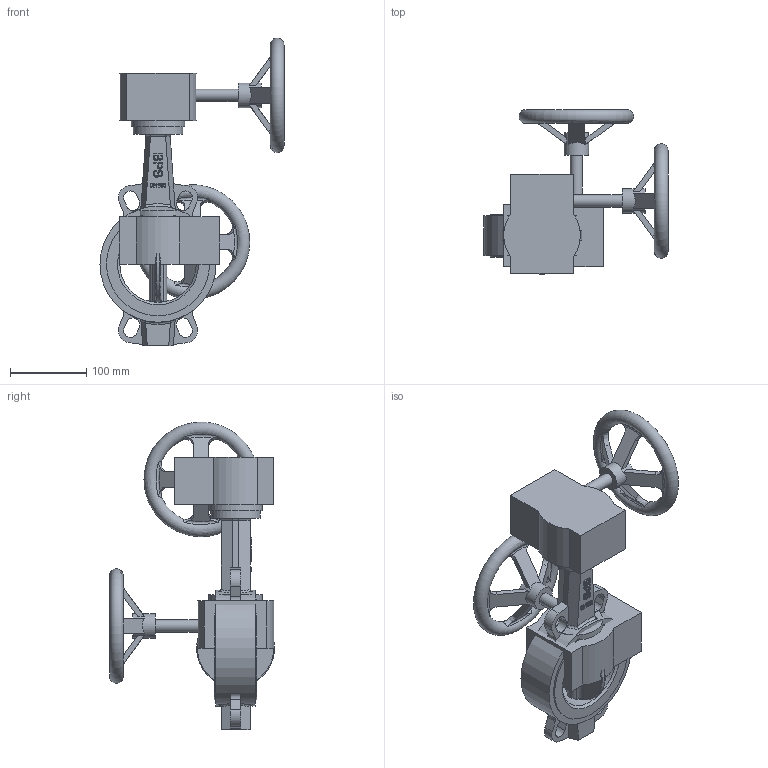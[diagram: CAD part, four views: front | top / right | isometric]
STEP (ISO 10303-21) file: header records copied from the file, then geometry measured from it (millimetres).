
FILE_DESCRIPTION( ( 'Unknown' ), '1' );
FILE_NAME( 'R:/ECCUA/ROOTSI BPS 3D vidinad/Poordklapid Wafer type/Butterfly valve(wafer) with gearbox BPS/STEP formaat/BPS 2303100VX butterfly valve DN100.stp', 'Unknown', ( 'Unknown' ), ( 'Unknown' ), 'PSStep 10.1', 'Unknown', ' ' );
FILE_SCHEMA( ( 'AUTOMOTIVE_DESIGN { 1 0 10303 214 1 1 1 1 }' ) );
Length unit declared in the file: millimetre
Products named in the file (3): Assem1; Butterfly valve wafer type DN100 BPS; Gearbox DN100 BPS
Bounding box: 241 x 215.83 x 403 mm (x, y, z)
Volume: 3564410.8 mm3; surface area: 422096.4 mm2
Topology: 4 solids, 4 shells, 486 faces, 1272 edges, 840 vertices
Faces by surface type: plane 222, cylinder 102, extrusion 84, bspline 56, torus 18, cone 4
Full cylindrical faces by diameter (mm): 7 x8, 16 x4, 32 x2, 65 x2, 70 x2, 100 x2, 135 x4, 152 x2
Entity records: 15402 total; most frequent: CARTESIAN_POINT 7878, ORIENTED_EDGE 1212, DIRECTION 938, EDGE_CURVE 606, VERTEX_POINT 412, EDGE_LOOP 314, VECTOR 314, AXIS2_PLACEMENT_3D 312
